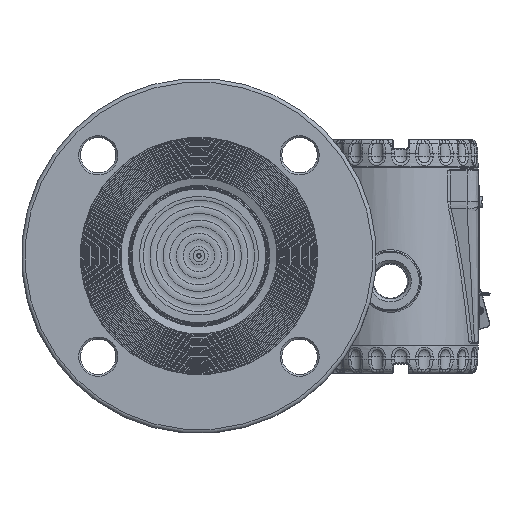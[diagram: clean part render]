
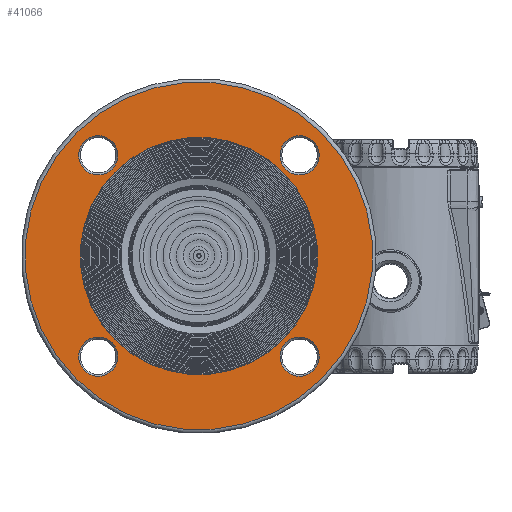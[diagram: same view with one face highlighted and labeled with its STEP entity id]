
A CAD part, top view. The second image highlights one B-rep face of the part: STEP entity #41066.
In plain terms, the highlighted planar face has unit normal (0, 0, 1).
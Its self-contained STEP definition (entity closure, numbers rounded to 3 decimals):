
#683=FACE_BOUND('',#6797,.T.);
#684=FACE_BOUND('',#6798,.T.);
#685=FACE_BOUND('',#6799,.T.);
#686=FACE_BOUND('',#6800,.T.);
#687=FACE_BOUND('',#6801,.T.);
#2666=PLANE('',#45613);
#4054=FACE_OUTER_BOUND('',#6796,.T.);
#6796=EDGE_LOOP('',(#31246));
#6797=EDGE_LOOP('',(#31247));
#6798=EDGE_LOOP('',(#31248));
#6799=EDGE_LOOP('',(#31249));
#6800=EDGE_LOOP('',(#31250));
#6801=EDGE_LOOP('',(#31251));
#13501=CIRCLE('',#45612,93.);
#13502=CIRCLE('',#45614,10.5);
#13503=CIRCLE('',#45615,10.5);
#13504=CIRCLE('',#45616,63.5);
#13505=CIRCLE('',#45617,10.5);
#13506=CIRCLE('',#45618,10.5);
#17987=VERTEX_POINT('',#72553);
#17988=VERTEX_POINT('',#72557);
#17989=VERTEX_POINT('',#72559);
#17990=VERTEX_POINT('',#72561);
#17991=VERTEX_POINT('',#72563);
#17992=VERTEX_POINT('',#72565);
#22710=EDGE_CURVE('',#17987,#17987,#13501,.T.);
#22711=EDGE_CURVE('',#17988,#17988,#13502,.T.);
#22712=EDGE_CURVE('',#17989,#17989,#13503,.T.);
#22713=EDGE_CURVE('',#17990,#17990,#13504,.T.);
#22714=EDGE_CURVE('',#17991,#17991,#13505,.T.);
#22715=EDGE_CURVE('',#17992,#17992,#13506,.T.);
#31246=ORIENTED_EDGE('',*,*,#22710,.F.);
#31247=ORIENTED_EDGE('',*,*,#22711,.F.);
#31248=ORIENTED_EDGE('',*,*,#22712,.F.);
#31249=ORIENTED_EDGE('',*,*,#22713,.F.);
#31250=ORIENTED_EDGE('',*,*,#22714,.F.);
#31251=ORIENTED_EDGE('',*,*,#22715,.F.);
#41066=ADVANCED_FACE('',(#4054,#683,#684,#685,#686,#687),#2666,.T.);
#45612=AXIS2_PLACEMENT_3D('',#72555,#53694,#53695);
#45613=AXIS2_PLACEMENT_3D('',#72556,#53696,#53697);
#45614=AXIS2_PLACEMENT_3D('',#72558,#53698,#53699);
#45615=AXIS2_PLACEMENT_3D('',#72560,#53700,#53701);
#45616=AXIS2_PLACEMENT_3D('',#72562,#53702,#53703);
#45617=AXIS2_PLACEMENT_3D('',#72564,#53704,#53705);
#45618=AXIS2_PLACEMENT_3D('',#72566,#53706,#53707);
#53694=DIRECTION('center_axis',(0.,0.,-1.));
#53695=DIRECTION('ref_axis',(-1.,0.,0.));
#53696=DIRECTION('center_axis',(0.,0.,1.));
#53697=DIRECTION('ref_axis',(1.,0.,0.));
#53698=DIRECTION('center_axis',(0.,0.,1.));
#53699=DIRECTION('ref_axis',(0.,-1.,0.));
#53700=DIRECTION('center_axis',(0.,0.,1.));
#53701=DIRECTION('ref_axis',(1.,0.,0.));
#53702=DIRECTION('center_axis',(0.,0.,1.));
#53703=DIRECTION('ref_axis',(-1.,0.,0.));
#53704=DIRECTION('center_axis',(0.,0.,1.));
#53705=DIRECTION('ref_axis',(0.,1.,0.));
#53706=DIRECTION('center_axis',(0.,0.,1.));
#53707=DIRECTION('ref_axis',(-1.,0.,0.));
#72553=CARTESIAN_POINT('',(93.,0.,22.3));
#72555=CARTESIAN_POINT('Origin',(0.,0.,22.3));
#72556=CARTESIAN_POINT('Origin',(0.,0.,
22.3));
#72557=CARTESIAN_POINT('',(-76.2,10.5,22.3));
#72558=CARTESIAN_POINT('Origin',(-76.2,0.,22.3));
#72559=CARTESIAN_POINT('',(-10.5,-76.2,22.3));
#72560=CARTESIAN_POINT('Origin',(0.,-76.2,22.3));
#72561=CARTESIAN_POINT('',(63.5,0.,22.3));
#72562=CARTESIAN_POINT('Origin',(0.,0.,22.3));
#72563=CARTESIAN_POINT('',(76.2,-10.5,22.3));
#72564=CARTESIAN_POINT('Origin',(76.2,0.,22.3));
#72565=CARTESIAN_POINT('',(10.5,76.2,22.3));
#72566=CARTESIAN_POINT('Origin',(0.,76.2,22.3));
